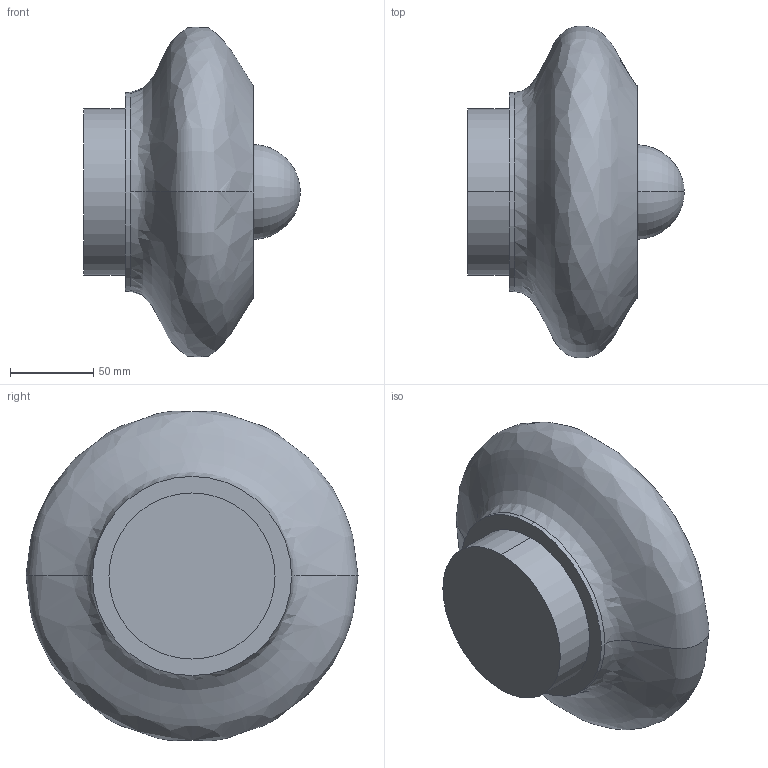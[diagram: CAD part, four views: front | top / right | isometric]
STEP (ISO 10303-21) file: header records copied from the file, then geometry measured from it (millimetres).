
FILE_DESCRIPTION (( 'STEP AP214' ), '1' );
FILE_NAME ('VITREE_A1346.STEP', '2025-09-05T10:43:14', ( '' ), ( '' ), 'SwSTEP 2.0', 'SolidWorks 2018', '' );
FILE_SCHEMA (( 'AUTOMOTIVE_DESIGN' ));
Length unit declared in the file: millimetre
Products named in the file (1): VITREE_A1346
Bounding box: 130.5 x 199.99 x 198.62 mm (x, y, z)
Volume: 485529.6 mm3; surface area: 208285.6 mm2
Topology: 5 solids, 5 shells, 31 faces, 58 edges, 37 vertices
Faces by surface type: cylinder 12, plane 11, bspline 4, torus 4
Entity records: 1721 total; most frequent: CARTESIAN_POINT 677, DIRECTION 148, ORIENTED_EDGE 112, AXIS2_PLACEMENT_3D 68, EDGE_CURVE 56, CIRCLE 40, UNCERTAINTY_MEASURE_WITH_UNIT 38, SURFACE_STYLE_USAGE 37
